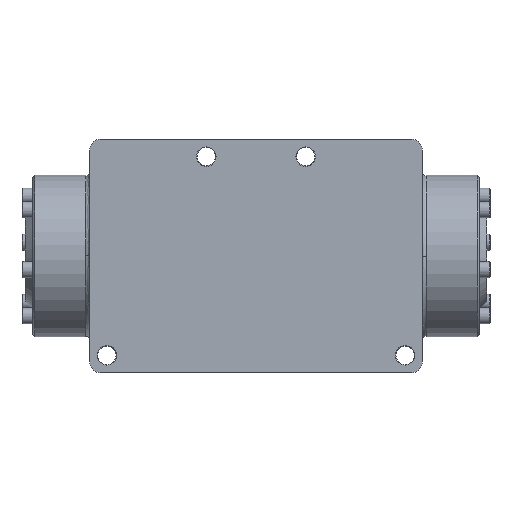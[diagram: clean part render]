
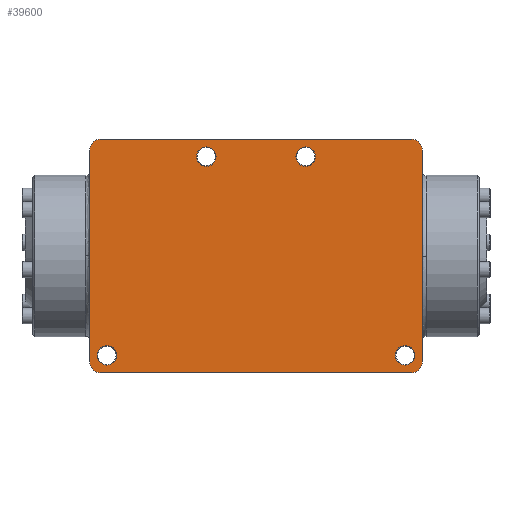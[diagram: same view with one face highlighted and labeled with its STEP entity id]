
A CAD part, front view. The second image highlights one B-rep face of the part: STEP entity #39600.
In plain terms, the highlighted planar face has unit normal (0, -1, 0).
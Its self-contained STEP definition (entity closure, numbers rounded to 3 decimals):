
#1432=FACE_BOUND('',#13057,.T.);
#1433=FACE_BOUND('',#13058,.T.);
#1434=FACE_BOUND('',#13059,.T.);
#1435=FACE_BOUND('',#13060,.T.);
#3190=LINE('',#63395,#5570);
#3196=LINE('',#63416,#5576);
#4049=LINE('',#74650,#6429);
#4052=LINE('',#74671,#6432);
#5570=VECTOR('',#49145,22.86);
#5576=VECTOR('',#49163,15.558);
#6429=VECTOR('',#51332,15.558);
#6432=VECTOR('',#51341,22.86);
#7880=PLANE('',#43063);
#9967=FACE_OUTER_BOUND('',#13056,.T.);
#13056=EDGE_LOOP('',(#32590,#32591,#32592,#32593,#32594,#32595,#32596,#32597));
#13057=EDGE_LOOP('',(#32598));
#13058=EDGE_LOOP('',(#32599));
#13059=EDGE_LOOP('',(#32600));
#13060=EDGE_LOOP('',(#32601));
#15118=CIRCLE('',#42395,0.794);
#15120=CIRCLE('',#42399,0.794);
#15365=CIRCLE('',#43054,0.794);
#15366=CIRCLE('',#43057,0.794);
#15370=CIRCLE('',#43064,0.714);
#15371=CIRCLE('',#43065,0.714);
#15372=CIRCLE('',#43066,0.714);
#15373=CIRCLE('',#43067,0.714);
#18239=VERTEX_POINT('',#63393);
#18240=VERTEX_POINT('',#63394);
#18245=VERTEX_POINT('',#63406);
#18246=VERTEX_POINT('',#63407);
#18249=VERTEX_POINT('',#63415);
#19373=VERTEX_POINT('',#74645);
#19374=VERTEX_POINT('',#74649);
#19375=VERTEX_POINT('',#74667);
#19384=VERTEX_POINT('',#74841);
#19385=VERTEX_POINT('',#74843);
#19386=VERTEX_POINT('',#74845);
#19387=VERTEX_POINT('',#74847);
#22309=EDGE_CURVE('',#18239,#18240,#3190,.T.);
#22315=EDGE_CURVE('',#18245,#18246,#15118,.T.);
#22319=EDGE_CURVE('',#18246,#18249,#3196,.T.);
#22325=EDGE_CURVE('',#18249,#18239,#15120,.T.);
#24023=EDGE_CURVE('',#18240,#19373,#15365,.T.);
#24025=EDGE_CURVE('',#19373,#19374,#4049,.T.);
#24028=EDGE_CURVE('',#19374,#19375,#15366,.T.);
#24030=EDGE_CURVE('',#19375,#18245,#4052,.T.);
#24041=EDGE_CURVE('',#19384,#19384,#15370,.T.);
#24042=EDGE_CURVE('',#19385,#19385,#15371,.T.);
#24043=EDGE_CURVE('',#19386,#19386,#15372,.T.);
#24044=EDGE_CURVE('',#19387,#19387,#15373,.T.);
#32590=ORIENTED_EDGE('',*,*,#24023,.T.);
#32591=ORIENTED_EDGE('',*,*,#24025,.T.);
#32592=ORIENTED_EDGE('',*,*,#24028,.T.);
#32593=ORIENTED_EDGE('',*,*,#24030,.T.);
#32594=ORIENTED_EDGE('',*,*,#22315,.T.);
#32595=ORIENTED_EDGE('',*,*,#22319,.T.);
#32596=ORIENTED_EDGE('',*,*,#22325,.T.);
#32597=ORIENTED_EDGE('',*,*,#22309,.T.);
#32598=ORIENTED_EDGE('',*,*,#24041,.T.);
#32599=ORIENTED_EDGE('',*,*,#24042,.T.);
#32600=ORIENTED_EDGE('',*,*,#24043,.T.);
#32601=ORIENTED_EDGE('',*,*,#24044,.T.);
#39600=ADVANCED_FACE('',(#9967,#1432,#1433,#1434,#1435),#7880,.T.);
#42395=AXIS2_PLACEMENT_3D('',#63408,#49155,#49156);
#42399=AXIS2_PLACEMENT_3D('',#63451,#49169,#49170);
#43054=AXIS2_PLACEMENT_3D('',#74646,#51327,#51328);
#43057=AXIS2_PLACEMENT_3D('',#74668,#51336,#51337);
#43063=AXIS2_PLACEMENT_3D('',#74840,#51354,#51355);
#43064=AXIS2_PLACEMENT_3D('',#74842,#51356,#51357);
#43065=AXIS2_PLACEMENT_3D('',#74844,#51358,#51359);
#43066=AXIS2_PLACEMENT_3D('',#74846,#51360,#51361);
#43067=AXIS2_PLACEMENT_3D('',#74848,#51362,#51363);
#49145=DIRECTION('',(1.,0.,0.));
#49155=DIRECTION('center_axis',(0.,-1.,0.));
#49156=DIRECTION('ref_axis',(-0.707,0.,0.707));
#49163=DIRECTION('',(0.,0.,-1.));
#49169=DIRECTION('center_axis',(0.,-1.,0.));
#49170=DIRECTION('ref_axis',(-0.707,0.,-0.707));
#51327=DIRECTION('center_axis',(0.,-1.,0.));
#51328=DIRECTION('ref_axis',(0.707,0.,-0.707));
#51332=DIRECTION('',(0.,0.,1.));
#51336=DIRECTION('center_axis',(0.,-1.,0.));
#51337=DIRECTION('ref_axis',(0.707,0.,0.707));
#51341=DIRECTION('',(-1.,0.,0.));
#51354=DIRECTION('center_axis',(0.,-1.,0.));
#51355=DIRECTION('ref_axis',(1.,0.,0.));
#51356=DIRECTION('center_axis',(0.,1.,0.));
#51357=DIRECTION('ref_axis',(1.,0.,0.));
#51358=DIRECTION('center_axis',(0.,1.,0.));
#51359=DIRECTION('ref_axis',(1.,0.,0.));
#51360=DIRECTION('center_axis',(0.,1.,0.));
#51361=DIRECTION('ref_axis',(1.,0.,0.));
#51362=DIRECTION('center_axis',(0.,1.,0.));
#51363=DIRECTION('ref_axis',(1.,0.,0.));
#63393=CARTESIAN_POINT('',(-11.43,-6.35,-8.573));
#63394=CARTESIAN_POINT('',(11.43,-6.35,-8.572));
#63395=CARTESIAN_POINT('',(-12.367,-6.35,-8.573));
#63406=CARTESIAN_POINT('',(-11.43,-6.35,8.573));
#63407=CARTESIAN_POINT('',(-12.224,-6.35,7.779));
#63408=CARTESIAN_POINT('Origin',(-11.43,-6.35,7.779));
#63415=CARTESIAN_POINT('',(-12.224,-6.35,-7.779));
#63416=CARTESIAN_POINT('',(-12.224,-6.35,4.286));
#63451=CARTESIAN_POINT('Origin',(-11.43,-6.35,-7.779));
#74645=CARTESIAN_POINT('',(12.224,-6.35,-7.779));
#74646=CARTESIAN_POINT('Origin',(11.43,-6.35,-7.779));
#74649=CARTESIAN_POINT('',(12.224,-6.35,7.779));
#74650=CARTESIAN_POINT('',(12.224,-6.35,-4.286));
#74667=CARTESIAN_POINT('',(11.43,-6.35,8.573));
#74668=CARTESIAN_POINT('Origin',(11.43,-6.35,7.779));
#74671=CARTESIAN_POINT('',(-0.143,-6.35,8.573));
#74840=CARTESIAN_POINT('Origin',(-12.51,-6.35,0.));
#74841=CARTESIAN_POINT('',(4.364,-6.35,7.303));
#74842=CARTESIAN_POINT('Origin',(3.65,-6.35,7.303));
#74843=CARTESIAN_POINT('',(-10.238,-6.35,-7.303));
#74844=CARTESIAN_POINT('Origin',(-10.952,-6.35,-7.303));
#74845=CARTESIAN_POINT('',(11.667,-6.35,-7.303));
#74846=CARTESIAN_POINT('Origin',(10.952,-6.35,-7.303));
#74847=CARTESIAN_POINT('',(-2.936,-6.35,7.303));
#74848=CARTESIAN_POINT('Origin',(-3.65,-6.35,7.303));
